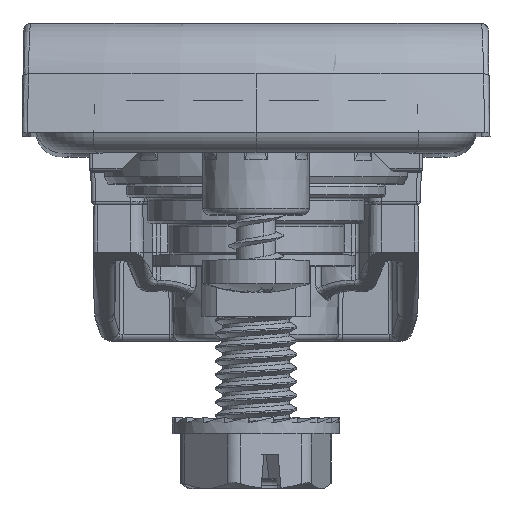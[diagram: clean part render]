
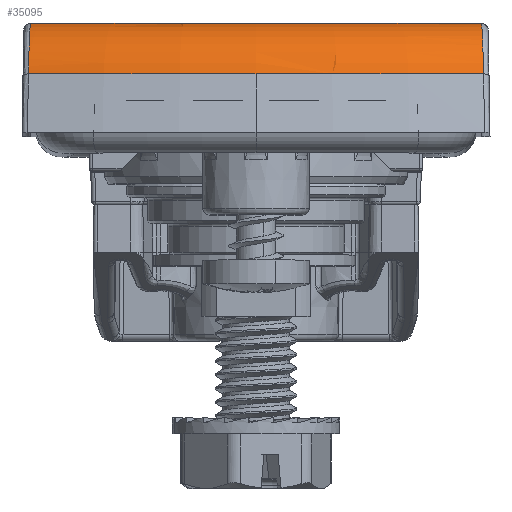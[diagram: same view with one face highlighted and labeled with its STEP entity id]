
A CAD part, top view. The second image highlights one B-rep face of the part: STEP entity #35095.
In plain terms, the highlighted toroidal (fillet/blend) face has major radius 74.02 mm and minor radius 5 mm.
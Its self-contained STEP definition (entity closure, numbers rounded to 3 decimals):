
#2472 = CARTESIAN_POINT ( 'NONE',  ( 16.509, 8., 167.155 ) ) ;
#4148 = DIRECTION ( 'NONE',  ( -1., 0., 0. ) ) ;
#4239 = CARTESIAN_POINT ( 'NONE',  ( -16.584, 7.114, 170.053 ) ) ;
#4697 = CARTESIAN_POINT ( 'NONE',  ( 16.619, 6.205, 171.074 ) ) ;
#5471 = ORIENTED_EDGE ( 'NONE', *, *, #45607, .F. ) ;
#5514 = CARTESIAN_POINT ( 'NONE',  ( 16.59, 6.968, 170.256 ) ) ;
#6141 = VERTEX_POINT ( 'NONE', #2472 ) ;
#8090 = B_SPLINE_CURVE_WITH_KNOTS ( 'NONE', 3,
 ( #16945, #33626, #35999, #74310, #4697, #36408, #12422, #60510, #24641, #61331, #37204, #68232, #5514, #12017, #48285, #11189, #36818, #54788, #17747, #61736, #42937, #48693, #30339, #54384, #79252, #55209, #29512 ),
 .UNSPECIFIED., .F., .F.,
 ( 4, 2, 2, 2, 1, 1, 2, 2, 2, 2, 1, 1, 1, 2, 2, 4 ),
 ( 0., 0.25, 0.375, 0.438, 0.469, 0.484, 0.492, 0.5, 0.625, 0.688, 0.719, 0.734, 0.742, 0.746, 0.75, 1. ),
 .UNSPECIFIED. ) ;
#8141 = CARTESIAN_POINT ( 'NONE',  ( 0., 4.294, 95. ) ) ;
#10331 = CARTESIAN_POINT ( 'NONE',  ( -16.547, 7.742, 168.772 ) ) ;
#10737 = CARTESIAN_POINT ( 'NONE',  ( -16.555, 7.648, 169.058 ) ) ;
#11135 = CARTESIAN_POINT ( 'NONE',  ( -16.547, 7.744, 168.766 ) ) ;
#11189 = CARTESIAN_POINT ( 'NONE',  ( 16.566, 7.468, 169.447 ) ) ;
#11537 = CARTESIAN_POINT ( 'NONE',  ( -16.547, 7.749, 168.752 ) ) ;
#12017 = CARTESIAN_POINT ( 'NONE',  ( 16.583, 7.132, 170.036 ) ) ;
#12179 = EDGE_CURVE ( 'NONE', #76037, #6141, #76925, .T. ) ;
#12422 = CARTESIAN_POINT ( 'NONE',  ( 16.605, 6.61, 170.682 ) ) ;
#14178 = CIRCLE ( 'NONE', #77889, 78.849 ) ;
#14342 = VERTEX_POINT ( 'NONE', #25391 ) ;
#14656 = VERTEX_POINT ( 'NONE', #17626 ) ;
#16945 = CARTESIAN_POINT ( 'NONE',  ( 16.669, 4.294, 172.067 ) ) ;
#17296 = CARTESIAN_POINT ( 'NONE',  ( -16.535, 7.874, 168.299 ) ) ;
#17626 = CARTESIAN_POINT ( 'NONE',  ( -16.669, 4.294, 172.067 ) ) ;
#17747 = CARTESIAN_POINT ( 'NONE',  ( 16.554, 7.652, 169.026 ) ) ;
#22364 = EDGE_CURVE ( 'NONE', #76037, #14656, #32835, .T. ) ;
#23689 = CARTESIAN_POINT ( 'NONE',  ( 0., 4.294, 95. ) ) ;
#24373 = CARTESIAN_POINT ( 'NONE',  ( 0., 4.294, 173.849 ) ) ;
#24641 = CARTESIAN_POINT ( 'NONE',  ( 16.596, 6.822, 170.441 ) ) ;
#25391 = CARTESIAN_POINT ( 'NONE',  ( 16.669, 4.294, 172.067 ) ) ;
#25410 = DIRECTION ( 'NONE',  ( 0., 1., 0. ) ) ;
#26045 = ORIENTED_EDGE ( 'NONE', *, *, #12179, .F. ) ;
#26802 = AXIS2_PLACEMENT_3D ( 'NONE', #8141, #57458, #63194 ) ;
#29061 = CARTESIAN_POINT ( 'NONE',  ( -16.562, 7.535, 169.319 ) ) ;
#29457 = CARTESIAN_POINT ( 'NONE',  ( -16.532, 7.902, 168.169 ) ) ;
#29512 = CARTESIAN_POINT ( 'NONE',  ( 16.509, 8., 167.155 ) ) ;
#29760 = DIRECTION ( 'NONE',  ( 0., -1., 0. ) ) ;
#29857 = CARTESIAN_POINT ( 'NONE',  ( -16.542, 7.802, 168.578 ) ) ;
#30339 = CARTESIAN_POINT ( 'NONE',  ( 16.548, 7.731, 168.805 ) ) ;
#31364 = EDGE_CURVE ( 'NONE', #14342, #6141, #8090, .T. ) ;
#32826 = EDGE_CURVE ( 'NONE', #49729, #14656, #48937, .T. ) ;
#32835 = B_SPLINE_CURVE_WITH_KNOTS ( 'NONE', 3,
 ( #73047, #72250, #66174, #29457, #17296, #60048, #29857, #78787, #48222, #11537, #11135, #10331, #10737, #29061, #42079, #35134, #49033, #4239, #73462, #42478, #66971, #35945, #66576, #41258, #79187, #80022, #60858 ),
 .UNSPECIFIED., .F., .F.,
 ( 4, 2, 2, 1, 1, 1, 2, 2, 2, 2, 1, 1, 2, 2, 2, 4 ),
 ( 0., 0.125, 0.187, 0.219, 0.234, 0.242, 0.246, 0.25, 0.375, 0.437, 0.469, 0.484, 0.492, 0.5, 0.75, 1. ),
 .UNSPECIFIED. ) ;
#33626 = CARTESIAN_POINT ( 'NONE',  ( 16.658, 4.802, 171.93 ) ) ;
#35095 = ADVANCED_FACE ( 'NONE', ( #78681 ), #75097, .T. ) ;
#35134 = CARTESIAN_POINT ( 'NONE',  ( -16.576, 7.275, 169.801 ) ) ;
#35945 = CARTESIAN_POINT ( 'NONE',  ( -16.589, 6.992, 170.224 ) ) ;
#35999 = CARTESIAN_POINT ( 'NONE',  ( 16.646, 5.3, 171.708 ) ) ;
#36408 = CARTESIAN_POINT ( 'NONE',  ( 16.608, 6.511, 170.783 ) ) ;
#36818 = CARTESIAN_POINT ( 'NONE',  ( 16.562, 7.529, 169.321 ) ) ;
#37204 = CARTESIAN_POINT ( 'NONE',  ( 16.592, 6.934, 170.3 ) ) ;
#41258 = CARTESIAN_POINT ( 'NONE',  ( -16.62, 6.218, 171.092 ) ) ;
#41541 = ORIENTED_EDGE ( 'NONE', *, *, #32826, .F. ) ;
#42079 = CARTESIAN_POINT ( 'NONE',  ( -16.573, 7.343, 169.684 ) ) ;
#42478 = CARTESIAN_POINT ( 'NONE',  ( -16.588, 7.019, 170.186 ) ) ;
#42937 = CARTESIAN_POINT ( 'NONE',  ( 16.549, 7.717, 168.848 ) ) ;
#45607 = EDGE_CURVE ( 'NONE', #14342, #49729, #14178, .T. ) ;
#48222 = CARTESIAN_POINT ( 'NONE',  ( -16.546, 7.755, 168.731 ) ) ;
#48285 = CARTESIAN_POINT ( 'NONE',  ( 16.576, 7.276, 169.811 ) ) ;
#48693 = CARTESIAN_POINT ( 'NONE',  ( 16.549, 7.725, 168.822 ) ) ;
#48937 = CIRCLE ( 'NONE', #26802, 78.849 ) ;
#49033 = CARTESIAN_POINT ( 'NONE',  ( -16.581, 7.168, 169.97 ) ) ;
#49729 = VERTEX_POINT ( 'NONE', #24373 ) ;
#49869 = DIRECTION ( 'NONE',  ( 1., 0., 0. ) ) ;
#54384 = CARTESIAN_POINT ( 'NONE',  ( 16.548, 7.735, 168.795 ) ) ;
#54788 = CARTESIAN_POINT ( 'NONE',  ( 16.557, 7.612, 169.125 ) ) ;
#55209 = CARTESIAN_POINT ( 'NONE',  ( 16.522, 8., 167.784 ) ) ;
#56377 = CARTESIAN_POINT ( 'NONE',  ( 0., 8., 95. ) ) ;
#57458 = DIRECTION ( 'NONE',  ( 0., -1., 0. ) ) ;
#57895 = CARTESIAN_POINT ( 'NONE',  ( -16.509, 8., 167.155 ) ) ;
#59308 = ORIENTED_EDGE ( 'NONE', *, *, #22364, .T. ) ;
#59952 = DIRECTION ( 'NONE',  ( 0., -1., 0. ) ) ;
#60048 = CARTESIAN_POINT ( 'NONE',  ( -16.54, 7.827, 168.486 ) ) ;
#60510 = CARTESIAN_POINT ( 'NONE',  ( 16.599, 6.753, 170.522 ) ) ;
#60858 = CARTESIAN_POINT ( 'NONE',  ( -16.669, 4.294, 172.067 ) ) ;
#61331 = CARTESIAN_POINT ( 'NONE',  ( 16.593, 6.901, 170.343 ) ) ;
#61736 = CARTESIAN_POINT ( 'NONE',  ( 16.551, 7.696, 168.908 ) ) ;
#62126 = AXIS2_PLACEMENT_3D ( 'NONE', #71754, #29760, #72936 ) ;
#63194 = DIRECTION ( 'NONE',  ( -1., 0., 0. ) ) ;
#66174 = CARTESIAN_POINT ( 'NONE',  ( -16.522, 7.972, 167.762 ) ) ;
#66576 = CARTESIAN_POINT ( 'NONE',  ( -16.605, 6.635, 170.701 ) ) ;
#66971 = CARTESIAN_POINT ( 'NONE',  ( -16.589, 7., 170.212 ) ) ;
#67284 = EDGE_LOOP ( 'NONE', ( #59308, #41541, #5471, #76250, #26045 ) ) ;
#68232 = CARTESIAN_POINT ( 'NONE',  ( 16.591, 6.956, 170.271 ) ) ;
#71754 = CARTESIAN_POINT ( 'NONE',  ( 0., 3., 95. ) ) ;
#72250 = CARTESIAN_POINT ( 'NONE',  ( -16.515, 8., 167.468 ) ) ;
#72936 = DIRECTION ( 'NONE',  ( 1., 0., 0. ) ) ;
#73039 = AXIS2_PLACEMENT_3D ( 'NONE', #56377, #25410, #49869 ) ;
#73047 = CARTESIAN_POINT ( 'NONE',  ( -16.509, 8., 167.155 ) ) ;
#73462 = CARTESIAN_POINT ( 'NONE',  ( -16.587, 7.048, 170.146 ) ) ;
#74310 = CARTESIAN_POINT ( 'NONE',  ( 16.626, 5.986, 171.248 ) ) ;
#75097 = TOROIDAL_SURFACE ( 'NONE', #62126, 74.02, 5. ) ;
#76037 = VERTEX_POINT ( 'NONE', #57895 ) ;
#76250 = ORIENTED_EDGE ( 'NONE', *, *, #31364, .T. ) ;
#76925 = CIRCLE ( 'NONE', #73039, 74.02 ) ;
#77889 = AXIS2_PLACEMENT_3D ( 'NONE', #23689, #59952, #4148 ) ;
#78681 = FACE_OUTER_BOUND ( 'NONE', #67284, .T. ) ;
#78787 = CARTESIAN_POINT ( 'NONE',  ( -16.545, 7.771, 168.68 ) ) ;
#79187 = CARTESIAN_POINT ( 'NONE',  ( -16.646, 5.302, 171.707 ) ) ;
#79252 = CARTESIAN_POINT ( 'NONE',  ( 16.536, 7.887, 168.333 ) ) ;
#80022 = CARTESIAN_POINT ( 'NONE',  ( -16.658, 4.803, 171.93 ) ) ;
